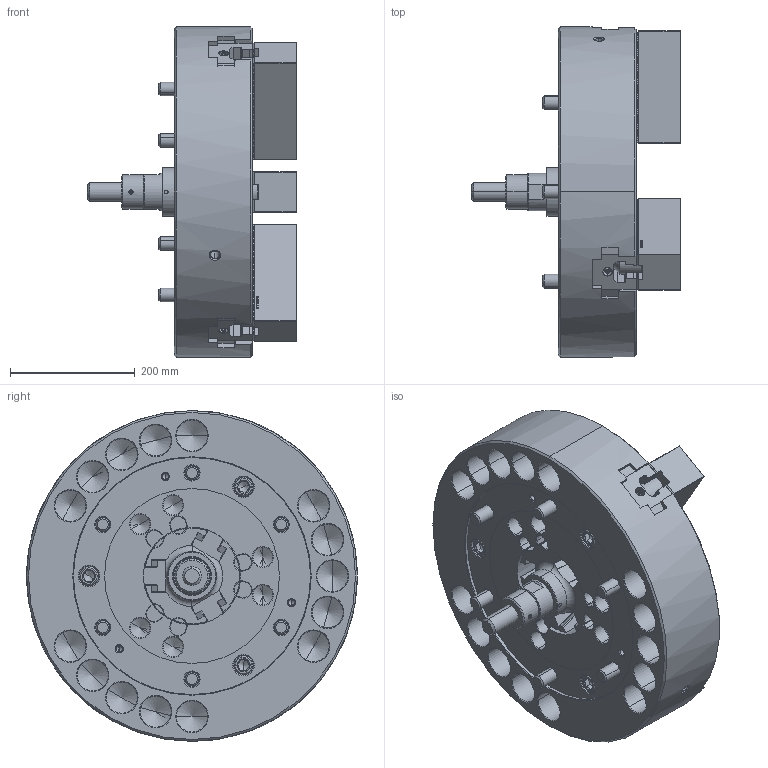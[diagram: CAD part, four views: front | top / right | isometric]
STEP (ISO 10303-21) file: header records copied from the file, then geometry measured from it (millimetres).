
FILE_DESCRIPTION (( 'STEP AP214' ), '1' );
FILE_NAME ('DT1_N-21_OUTSIDE_VIEW_HOL.STEP', '2026-03-19T00:02:43', ( '' ), ( '' ), 'SwSTEP 2.0', 'SolidWorks 2022', '' );
FILE_SCHEMA (( 'AUTOMOTIVE_DESIGN' ));
Length unit declared in the file: millimetre
Products named in the file (11): DT1_N-21_DRAWSCREW^DT1_N-21; DT1_N-21_SOFTJAW^DT1_N-21; DT1_N-21_M22x120^DT1_N-21; DT1_N-21_BASE^DT1_N-21; DT1_N-21_COVER^DT1_N-21; Copy of 61P321208^DT1_N-21; DT1_N-21_M20x60^DT1_N-21; DT1_N-21_TNUT^DT1_N-21; DT1_N-21_OUTSIDE_VIEW_HOL; DT1_N-21_M6x12^DT1_N-21; DT1_N-21_DN^DT1_N-21
Assembly tree (29 placements, depth 2):
  DT1_N-21_OUTSIDE_VIEW_HOL
    DT1_N-21_SOFTJAW^DT1_N-21  x3
    DT1_N-21_TNUT^DT1_N-21  x6
    DT1_N-21_COVER^DT1_N-21
    DT1_N-21_DRAWSCREW^DT1_N-21
    Copy of 61P321208^DT1_N-21
    DT1_N-21_DN^DT1_N-21
    DT1_N-21_BASE^DT1_N-21
    DT1_N-21_M6x12^DT1_N-21  x3
    DT1_N-21_M22x120^DT1_N-21  x6
    DT1_N-21_M20x60^DT1_N-21  x6
Bounding box: 335.44 x 530 x 530 mm (x, y, z)
Volume: 26097563.6 mm3; surface area: 1650489.8 mm2
Topology: 29 solids, 47 shells, 8182 faces, 23085 edges, 15150 vertices
Faces by surface type: plane 5150, cylinder 1561, bspline 848, cone 537, torus 80, sphere 6
Entity records: 228539 total; most frequent: CARTESIAN_POINT 72796, ORIENTED_EDGE 35294, DIRECTION 27500, EDGE_CURVE 17647, LINE 13232, VECTOR 13232, VERTEX_POINT 11624, AXIS2_PLACEMENT_3D 7134
